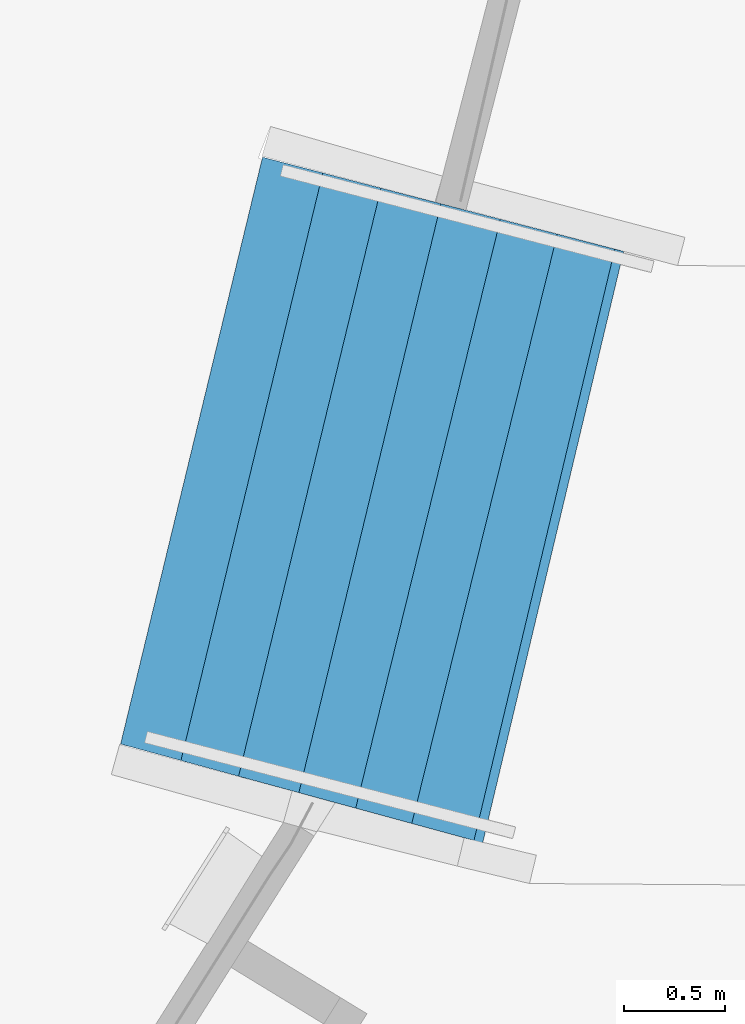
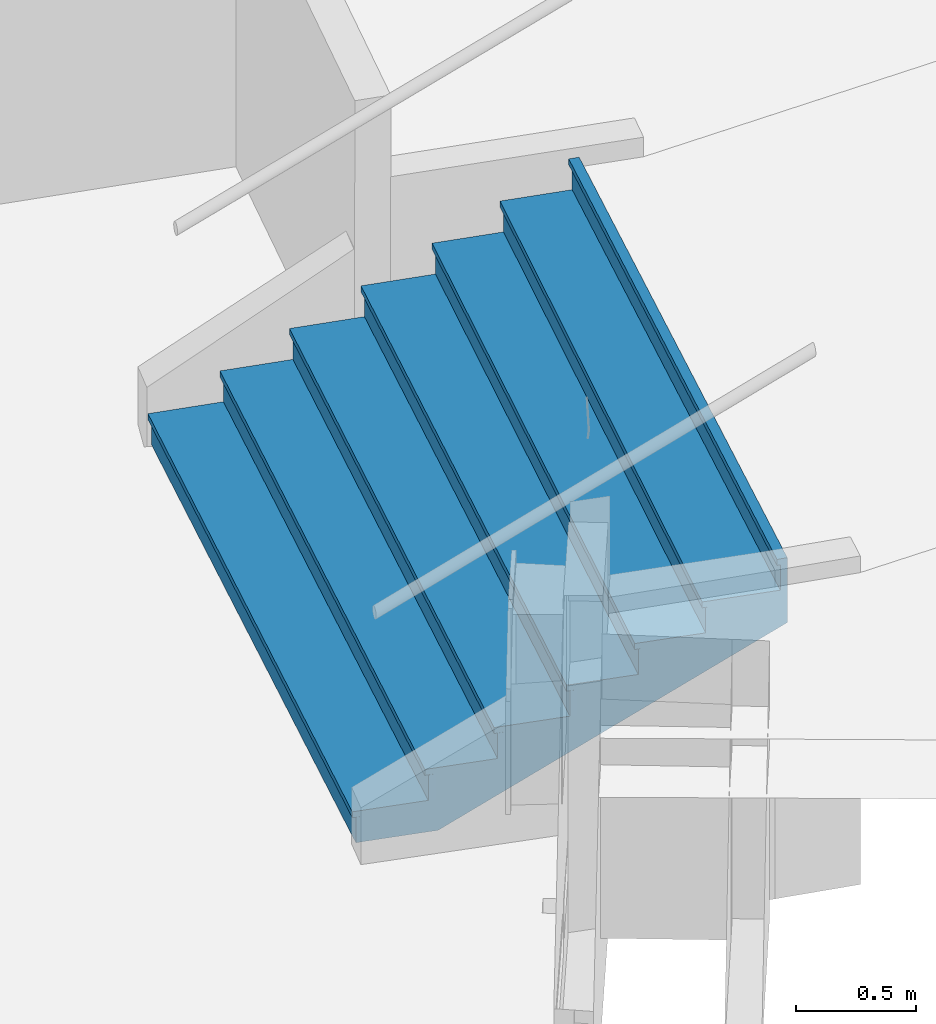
# One storey, part 117 of 133: 1 stair flight, 1 element without a shape of its own.
"""IFC2X3 building model written with IfcOpenShell, lengths in centimetres."""

from ifc_helpers import new_model, entity, si_unit, converted_unit, direction, frame, origin, origin_with_axes, place, context, subcontext, project, spatial, faceted_brep, material, material_list, element, aggregate, save


model = new_model("IFC2X3")

# Units and contexts
model_context = context("Model", 3, precision=0.0001, world=origin(), true_north=direction((0.225632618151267, 0.974212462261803, 0.0)))
body_context = subcontext(model_context, "Body", "Model", "MODEL_VIEW")
ifc_project = project(units=[si_unit("LENGTHUNIT", "METRE", prefix="CENTI"), si_unit("AREAUNIT", "SQUARE_METRE", prefix="CENTI"), si_unit("VOLUMEUNIT", "CUBIC_METRE", prefix="CENTI"), converted_unit("PLANEANGLEUNIT", "DEGREE", entity("IfcRatioMeasure", 0.0174532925), si_unit("PLANEANGLEUNIT", "RADIAN"), dimensions=[0, 0, 0, 0, 0, 0, 0])], contexts=[model_context])

# Site, building, storey
site_placement = place(None, origin_with_axes())
site = spatial("IfcSite", under=ifc_project, at=site_placement, Name="Default Site", CompositionType="ELEMENT")
building_placement = place(site_placement, origin_with_axes())
building = spatial("IfcBuilding", under=site, at=building_placement, Name="Default Building", CompositionType="ELEMENT")
storey_placement = place(building_placement, frame((0.0, 0.0, -291.400371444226), z_axis=(0.0, 0.0, 1.0), x_axis=(1.0, 0.0, 0.0)))
storey = spatial("IfcBuildingStorey", under=building, at=storey_placement, Name="Rez-de-Jardin", CompositionType="ELEMENT", Elevation=-291.400371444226)

# Stair, stair flight
stair_placement = place(storey_placement, frame((1640.38055323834, 281.257203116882, 0.0), z_axis=(0.0, 0.0, 1.0), x_axis=(1.0, 0.0, 0.0)))
stair = element("IfcStair", 1, at=stair_placement, inside=storey, Name="Escalier 135402", ShapeType="NOTDEFINED")
ifc_material_1 = material(Name="Blanc")
ifc_material_2 = material(Name="Blanc apricena")
ifc_material_3 = material(Name="Brèche oniciata")
ifc_material_list = material_list([ifc_material_1, ifc_material_2, ifc_material_3])
stair_flight_placement = place(stair_placement, frame((35.2978906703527, 145.969912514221, 12.9143341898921), z_axis=(0.0, 0.0, 1.0), x_axis=(0.9719872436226, -0.235033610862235, 0.0)))
stair_flight = element("IfcStairFlight", 2, at=stair_flight_placement, material=ifc_material_list, Name="4294967264", context=body_context, shape_type="Brep", body=[
    faceted_brep([(-2.99999265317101, 0.0, -12.9143238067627), (0.0, 0.0, -12.9143238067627), (-0.00267838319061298, -300.354185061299, -12.9143238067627), (-3.00267663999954, -300.354161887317, -12.9143238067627), (0.0, 0.0, 4.44089209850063e-14), (-2.99999265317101, 0.0, 4.44089209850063e-14), (-3.00267663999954, -300.354161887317, 4.44089209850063e-14), (-0.00267838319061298, -300.354185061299, 4.44089209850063e-14), (-3.00267747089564, -300.354161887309, -12.9143238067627), (-2.99999182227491, -7.42724712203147e-12, 4.44089209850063e-14), (-2.99999265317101, 1.35059962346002e-08, -12.9143238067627), (-6.08041270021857e-17, -1.35059962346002e-08, 4.44089209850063e-14), (-2.26574293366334e-06, 2.01874803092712e-11, -12.9143238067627), (-0.00267611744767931, -300.354185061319, 4.44089209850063e-14), (-0.00267838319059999, -300.354185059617, -12.9143238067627), (-3.00267663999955, -300.354161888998, 4.44089209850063e-14)], [[[0, 1, 2]], [[2, 3, 0]], [[4, 5, 6]], [[6, 7, 4]], [[5, 0, 8]], [[3, 6, 9]], [[4, 1, 10]], [[0, 5, 11]], [[7, 2, 12]], [[1, 4, 13]], [[6, 3, 14]], [[2, 7, 15]]]),
    faceted_brep([(27.9791310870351, -0.55913938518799, 2.9999971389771), (30.9792367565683, -0.557983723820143, 2.9999971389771), (31.0951195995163, -301.258842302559, 2.9999971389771), (28.095019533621, -301.260021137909, 2.9999971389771), (30.9792367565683, -0.557983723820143, 15.9143447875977), (27.9791310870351, -0.55913938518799, 15.9143447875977), (28.095019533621, -301.260021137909, 15.9143447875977), (31.0951195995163, -301.258842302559, 15.9143447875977), (28.0950159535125, -301.260021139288, 2.9999971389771), (27.9791346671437, -0.559139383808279, 15.9143447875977), (27.9791310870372, -0.559139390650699, 2.9999971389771), (30.9792367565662, -0.557983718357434, 15.9143447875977), (30.9792390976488, -0.557983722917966, 2.9999971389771), (31.0951172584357, -301.258842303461, 15.9143447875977), (31.09511959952, -301.2588423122, 2.9999971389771), (28.0950195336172, -301.260021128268, 15.9143447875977)], [[[0, 1, 2]], [[2, 3, 0]], [[4, 5, 6]], [[6, 7, 4]], [[5, 0, 8]], [[3, 6, 9]], [[4, 1, 10]], [[0, 5, 11]], [[7, 2, 12]], [[1, 4, 13]], [[6, 3, 14]], [[2, 7, 15]]]),
    faceted_brep([(57.9006496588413, -1.09590581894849, 18.9143419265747), (60.9006922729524, -1.09692395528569, 18.9143419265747), (60.8000834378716, -302.123004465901, 18.9143419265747), (57.8000464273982, -302.122009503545, 18.9143419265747), (60.9006922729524, -1.09692395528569, 31.8286895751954), (57.9006496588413, -1.09590581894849, 31.8286895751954), (57.8000464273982, -302.122009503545, 31.8286895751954), (60.8000834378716, -302.123004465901, 31.8286895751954), (57.8000470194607, -302.122009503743, 18.9143419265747), (57.9006490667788, -1.09590581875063, 31.8286895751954), (57.9006496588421, -1.09590581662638, 18.9143419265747), (60.9006922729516, -1.09692395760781, 31.8286895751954), (60.9006947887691, -1.09692395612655, 18.9143419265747), (60.8000809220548, -302.12300446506, 31.8286895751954), (60.800083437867, -302.123004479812, 18.9143419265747), (57.8000464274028, -302.122009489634, 31.8286895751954)], [[[0, 1, 2]], [[2, 3, 0]], [[4, 5, 6]], [[6, 7, 4]], [[5, 0, 8]], [[3, 6, 9]], [[4, 1, 10]], [[0, 5, 11]], [[7, 2, 12]], [[1, 4, 13]], [[6, 3, 14]], [[2, 7, 15]]]),
    faceted_brep([(88.6742264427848, -1.65304086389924, 34.8286867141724), (91.6741640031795, -1.65118998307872, 34.8286867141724), (91.861137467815, -303.0266492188, 34.8286867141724), (88.8611999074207, -303.02850009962, 34.8286867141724), (91.6741640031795, -1.65118998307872, 47.7430105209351), (88.6742264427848, -1.65304086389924, 47.7430105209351), (88.8611999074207, -303.02850009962, 47.7430105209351), (91.861137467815, -303.0266492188, 47.7430105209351), (88.8611971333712, -303.028500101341, 34.8286867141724), (88.6742292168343, -1.65304086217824, 47.7430105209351), (88.6742264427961, -1.65304088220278, 34.8286867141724), (91.6741640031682, -1.65118996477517, 47.7430105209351), (91.6741667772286, -1.65118998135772, 34.8286867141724), (91.8611346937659, -303.026649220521, 47.7430105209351), (91.8611374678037, -303.026649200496, 34.8286867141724), (88.861199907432, -303.028500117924, 47.7430105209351)], [[[0, 1, 2]], [[2, 3, 0]], [[4, 5, 6]], [[6, 7, 4]], [[5, 0, 8]], [[3, 6, 9]], [[4, 1, 10]], [[0, 5, 11]], [[7, 2, 12]], [[1, 4, 13]], [[6, 3, 14]], [[2, 7, 15]]]),
    faceted_brep([(119.259056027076, -2.19081455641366, 50.7430315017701), (122.25903086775, -2.20210219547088, 50.7430315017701), (121.125407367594, -303.878004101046, 50.7430315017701), (118.125435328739, -303.86672804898, 50.7430315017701), (122.25903086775, -2.20210219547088, 63.6573553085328), (119.259056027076, -2.19081455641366, 63.6573553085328), (118.125435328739, -303.86672804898, 63.6573553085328), (121.125407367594, -303.878004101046, 63.6573553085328), (118.125434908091, -303.866728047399, 50.7430315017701), (119.259056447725, -2.19081455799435, 63.6573553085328), (119.259056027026, -2.19081456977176, 50.7430315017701), (122.2590308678, -2.20210218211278, 63.6573553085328), (122.259032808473, -2.20210220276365, 50.7430315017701), (121.125405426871, -303.878004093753, 63.6573553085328), (121.125407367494, -303.878004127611, 50.7430315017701), (118.125435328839, -303.866728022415, 63.6573553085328)], [[[0, 1, 2]], [[2, 3, 0]], [[4, 5, 6]], [[6, 7, 4]], [[5, 0, 8]], [[3, 6, 9]], [[4, 1, 10]], [[0, 5, 11]], [[7, 2, 12]], [[1, 4, 13]], [[6, 3, 14]], [[2, 7, 15]]]),
    faceted_brep([(148.499767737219, -2.71427182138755, 66.6573524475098), (151.49972948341, -2.72875139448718, 66.6573524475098), (150.043428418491, -304.719224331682, 66.6573524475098), (147.043469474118, -304.704756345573, 66.6573524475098), (151.49972948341, -2.72875139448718, 79.5717000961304), (148.499767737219, -2.71427182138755, 79.5717000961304), (147.043469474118, -304.704756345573, 79.5717000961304), (150.043428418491, -304.719224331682, 79.5717000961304), (147.04347020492, -304.704756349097, 66.6573524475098), (148.499767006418, -2.71427181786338, 79.5717000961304), (148.499767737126, -2.7142718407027, 66.6573524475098), (151.499729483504, -2.72875137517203, 79.5717000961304), (151.49973026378, -2.7287513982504, 66.6573524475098), (150.043427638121, -304.719224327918, 79.5717000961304), (150.043428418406, -304.719224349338, 66.6573524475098), (147.043469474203, -304.704756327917, 79.5717000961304)], [[[0, 1, 2]], [[2, 3, 0]], [[4, 5, 6]], [[6, 7, 4]], [[5, 0, 8]], [[3, 6, 9]], [[4, 1, 10]], [[0, 5, 11]], [[7, 2, 12]], [[1, 4, 13]], [[6, 3, 14]], [[2, 7, 15]]]),
    faceted_brep([(178.052172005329, -3.27131728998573, 82.5716972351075), (181.052226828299, -3.26102461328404, 82.5716972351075), (182.08666682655, -305.651454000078, 82.5716972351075), (179.086794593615, -305.661690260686, 82.5716972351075), (181.052226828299, -3.26102461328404, 95.4860329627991), (178.052172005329, -3.27131728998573, 95.4860329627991), (179.086794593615, -305.661690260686, 95.4860329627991), (182.08666682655, -305.651454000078, 95.4860329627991), (179.086794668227, -305.66169026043, 82.5716972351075), (178.052171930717, -3.27131729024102, 95.4860329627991), (178.052172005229, -3.2713172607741, 82.5716972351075), (181.0522268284, -3.26102464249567, 95.4860329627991), (181.052223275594, -3.26102462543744, 82.5716972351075), (182.086670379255, -305.651453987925, 95.4860329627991), (182.086666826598, -305.651454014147, 82.5716972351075), (179.086794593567, -305.661690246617, 95.4860329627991)], [[[0, 1, 2]], [[2, 3, 0]], [[4, 5, 6]], [[6, 7, 4]], [[5, 0, 8]], [[3, 6, 9]], [[4, 1, 10]], [[0, 5, 11]], [[7, 2, 12]], [[1, 4, 13]], [[6, 3, 14]], [[2, 7, 15]]]),
    faceted_brep([(-0.00267838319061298, -300.354185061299, -12.9143238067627), (-0.00267838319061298, -300.354185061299, 4.44089209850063e-14), (-2.26574293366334e-06, 2.01874803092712e-11, 4.44089209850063e-14), (0.0, 0.0, 4.44089209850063e-14), (0.0, 0.0, -12.9143238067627), (-0.00267611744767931, -300.354185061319, -12.9143238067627), (31.0951195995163, -301.258842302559, 4.44089209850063e-14), (31.0951195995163, -301.258842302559, 15.9143447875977), (30.9792390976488, -0.557983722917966, 15.9143447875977), (30.9792367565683, -0.557983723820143, 15.9143447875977), (30.9792367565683, -0.557983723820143, 4.44089209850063e-14), (31.0951172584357, -301.258842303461, 4.44089209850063e-14), (60.8000834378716, -302.123004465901, 15.9143447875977), (60.8000834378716, -302.123004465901, 31.8286895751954), (60.9006947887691, -1.09692395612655, 31.8286895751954), (60.9006922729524, -1.09692395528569, 31.8286895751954), (60.9006922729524, -1.09692395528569, 15.9143447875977), (60.8000809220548, -302.12300446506, 15.9143447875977), (91.861137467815, -303.0266492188, 31.8286895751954), (91.861137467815, -303.0266492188, 47.7430105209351), (91.6741667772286, -1.65118998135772, 47.7430105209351), (91.6741640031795, -1.65118998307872, 47.7430105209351), (91.6741640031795, -1.65118998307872, 31.8286895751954), (91.8611346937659, -303.026649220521, 31.8286895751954), (121.125407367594, -303.878004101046, 47.7430105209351), (121.125407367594, -303.878004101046, 63.6573553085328), (122.259032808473, -2.20210220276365, 63.6573553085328), (122.25903086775, -2.20210219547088, 63.6573553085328), (122.25903086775, -2.20210219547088, 47.7430105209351), (121.125405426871, -303.878004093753, 47.7430105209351), (150.043428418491, -304.719224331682, 63.6573553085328), (150.043428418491, -304.719224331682, 79.5717000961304), (151.49973026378, -2.7287513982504, 79.5717000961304), (151.49972948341, -2.72875139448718, 79.5717000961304), (151.49972948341, -2.72875139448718, 63.6573553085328), (150.043427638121, -304.719224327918, 63.6573553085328), (182.08666682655, -305.651454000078, 79.5717000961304), (181.052226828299, -3.26102461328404, 79.5717000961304), (182.08666682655, -305.651454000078, 65.6250476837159), (181.052223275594, -3.26102462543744, 65.6250476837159), (181.052226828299, -3.26102461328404, 65.6250476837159), (182.086670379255, -305.651453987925, 79.5717000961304), (32.1328117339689, -0.578785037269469, -12.9143238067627), (32.3142521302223, -301.294317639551, -12.9143238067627), (31.0951195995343, -301.258842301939, 4.39519102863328e-14), (-0.00267838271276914, -300.354185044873, -12.9143238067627), (32.3142521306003, -301.294317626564, -12.9143238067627), (32.3142521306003, -301.294317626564, 15.9143447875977), (31.0951195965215, -301.258842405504, 4.44089209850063e-14), (60.80008341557, -302.123005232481, 15.9143447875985), (32.3142521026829, -301.294318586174, -12.9143238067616), (182.086666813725, -305.651454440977, 65.6250476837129), (91.8611374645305, -303.026649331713, 31.8286895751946), (182.086666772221, -305.651455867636, 65.6250476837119), (121.125407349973, -303.878004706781, 47.7430105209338), (182.086666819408, -305.651454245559, 65.6250476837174), (150.043428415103, -304.719224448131, 63.6573553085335), (182.086666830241, -305.651453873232, 65.6250476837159), (182.086666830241, -305.651453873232, 79.5717000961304), (150.043428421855, -304.71922421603, 63.6573553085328), (121.125407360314, -303.878004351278, 47.7430105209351), (91.8611374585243, -303.026649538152, 31.8286895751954), (32.3142521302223, -301.294317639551, 15.9143447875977), (60.8000834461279, -302.123004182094, 15.9143447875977), (32.1328117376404, -0.57878483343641, -12.9143238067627), (-4.46227687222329e-09, -2.47745561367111e-07, 4.981633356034e-13), (30.9792367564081, -0.557983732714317, 6.06989013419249e-14), (30.9792367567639, -0.557983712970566, 4.44089209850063e-14), (32.1328117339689, -0.578785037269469, 15.9143447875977), (30.9792367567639, -0.557983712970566, 15.9143447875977), (60.9006922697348, -1.09692413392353, 15.9143447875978), (181.052226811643, -3.26102553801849, 65.6250476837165), (32.1328117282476, -0.578785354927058, -12.9143238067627), (32.1328117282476, -0.578785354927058, 15.9143447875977), (60.900692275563, -1.09692381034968, 15.9143447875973), (91.6741640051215, -1.651189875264, 31.8286895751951), (60.9006922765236, -1.09692375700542, 15.9143447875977), (60.9006922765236, -1.09692375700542, 31.8286895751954), (91.6741639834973, -1.65119107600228, 31.8286895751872), (122.259030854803, -2.20210291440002, 47.7430105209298), (91.6741640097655, -1.65118961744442, 31.8286895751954), (91.6741640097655, -1.65118961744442, 47.7430105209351), (122.259030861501, -2.20210254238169, 47.7430105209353), (151.49972948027, -2.7287515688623, 63.6573553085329), (122.259030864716, -2.20210236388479, 47.7430105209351), (122.259030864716, -2.20210236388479, 63.6573553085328), (151.499729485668, -2.72875126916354, 63.6573553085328), (151.499729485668, -2.72875126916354, 79.5717000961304), (182.086667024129, -305.651453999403, 65.6250473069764), (32.314252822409, -301.294317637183, -12.9143251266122), (32.3142508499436, -301.294317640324, -12.9143213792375), (32.1328109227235, -0.578785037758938, -12.9143222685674)], [[[0, 1, 2]], [[3, 4, 5]], [[6, 7, 8]], [[9, 10, 11]], [[12, 13, 14]], [[15, 16, 17]], [[18, 19, 20]], [[21, 22, 23]], [[24, 25, 26]], [[27, 28, 29]], [[30, 31, 32]], [[33, 34, 35]], [[1, 6, 10]], [[10, 3, 1]], [[7, 12, 16]], [[16, 9, 7]], [[13, 18, 22]], [[22, 15, 13]], [[19, 24, 28]], [[28, 21, 19]], [[25, 30, 34]], [[34, 27, 25]], [[31, 36, 37]], [[37, 33, 31]], [[36, 38, 39]], [[40, 37, 41]], [[42, 43, 0]], [[0, 4, 42]], [[43, 44, 45]], [[6, 46, 47]], [[6, 47, 7]], [[1, 0, 48]], [[38, 49, 50]], [[12, 51, 52]], [[18, 53, 54]], [[24, 55, 56]], [[30, 57, 31]], [[31, 57, 58]], [[25, 24, 59]], [[19, 18, 60]], [[13, 12, 61]], [[62, 43, 63]], [[3, 64, 4]], [[42, 65, 66]], [[42, 67, 68]], [[68, 67, 69]], [[42, 70, 71]], [[16, 72, 73]], [[40, 74, 75]], [[22, 76, 77]], [[40, 78, 79]], [[28, 80, 81]], [[40, 82, 83]], [[34, 84, 85]], [[40, 86, 87]], [[40, 87, 37]], [[40, 88, 89]], [[40, 90, 91]]]),
    faceted_brep([(-4.50254049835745, -300.223243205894, 2.9999971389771), (31.0951195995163, -301.258842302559, 2.9999971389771), (30.9792367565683, -0.557983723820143, 2.9999971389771), (-4.49995861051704, 0.0810265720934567, 2.9999971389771), (30.9792367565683, -0.557983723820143, 4.44089209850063e-14), (31.0951195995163, -301.258842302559, 4.44089209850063e-14), (-4.50254049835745, -300.223243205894, 4.44089209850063e-14), (-4.49995861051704, 0.0810265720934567, 4.44089209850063e-14), (-4.49996037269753, 0.0810265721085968, 2.9999971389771), (-4.50253873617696, -300.22324320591, 4.44089209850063e-14), (-4.50254049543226, -300.223243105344, 2.9999971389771), (31.0951195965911, -301.258842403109, 4.44089209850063e-14), (31.0951172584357, -301.258842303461, 2.9999971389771), (30.9792390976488, -0.557983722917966, 4.44089209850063e-14), (30.9792367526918, -0.55798393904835, 2.9999971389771), (-4.4999586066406, 0.0810267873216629, 4.44089209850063e-14)], [[[0, 1, 2]], [[2, 3, 0]], [[4, 5, 6]], [[6, 7, 4]], [[6, 0, 8]], [[3, 7, 9]], [[5, 1, 10]], [[0, 6, 11]], [[4, 2, 12]], [[1, 5, 13]], [[7, 3, 14]], [[2, 4, 15]]]),
    faceted_brep([(26.5950664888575, -301.127922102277, 18.9143419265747), (60.8000834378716, -302.123004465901, 18.9143419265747), (60.9006922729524, -1.09692395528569, 18.9143419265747), (26.479266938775, -0.476910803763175, 18.9143419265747), (60.9006922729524, -1.09692395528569, 15.9143447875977), (60.8000834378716, -302.123004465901, 15.9143447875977), (26.5950664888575, -301.127922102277, 15.9143447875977), (26.479266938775, -0.476910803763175, 15.9143447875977), (26.4792661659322, -0.476910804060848, 18.9143419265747), (26.5950672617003, -301.127922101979, 15.9143447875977), (26.5950665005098, -301.127921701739, 18.9143419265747), (60.8000834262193, -302.123004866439, 15.9143447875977), (60.8000809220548, -302.12300446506, 18.9143419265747), (60.9006947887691, -1.09692395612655, 15.9143447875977), (60.9006922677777, -1.09692424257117, 18.9143419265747), (26.4792669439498, -0.476910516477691, 15.9143447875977)], [[[0, 1, 2]], [[2, 3, 0]], [[4, 5, 6]], [[6, 7, 4]], [[6, 0, 8]], [[3, 7, 9]], [[5, 1, 10]], [[0, 6, 11]], [[4, 2, 12]], [[1, 5, 13]], [[7, 3, 14]], [[2, 4, 15]]]),
    faceted_brep([(56.3000387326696, -301.992119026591, 34.8286867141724), (91.861137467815, -303.0266492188, 34.8286867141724), (91.6741640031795, -1.65118998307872, 34.8286867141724), (56.4007224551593, -1.01585103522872, 34.8286867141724), (91.6741640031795, -1.65118998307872, 31.8286895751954), (91.861137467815, -303.0266492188, 31.8286895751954), (56.3000387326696, -301.992119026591, 31.8286895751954), (56.4007224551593, -1.01585103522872, 31.8286895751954), (56.4007204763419, -1.01585103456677, 34.8286867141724), (56.300040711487, -301.992119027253, 31.8286895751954), (56.3000387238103, -301.992119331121, 34.8286867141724), (91.8611374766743, -303.026648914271, 31.8286895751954), (91.8611346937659, -303.026649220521, 34.8286867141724), (91.6741667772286, -1.65118998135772, 31.8286895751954), (91.6741640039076, -1.65118994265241, 34.8286867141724), (56.4007224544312, -1.01585107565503, 31.8286895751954)], [[[0, 1, 2]], [[2, 3, 0]], [[4, 5, 6]], [[6, 7, 4]], [[6, 0, 8]], [[3, 7, 9]], [[5, 1, 10]], [[0, 6, 11]], [[4, 2, 12]], [[1, 5, 13]], [[7, 3, 14]], [[2, 4, 15]]]),
    faceted_brep([(87.3610843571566, -302.895729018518, 50.7430315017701), (121.125407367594, -303.878004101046, 50.7430315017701), (122.25903086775, -2.20210219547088, 50.7430315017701), (87.1741941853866, -1.57011706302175, 50.7430315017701), (122.25903086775, -2.20210219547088, 47.7430105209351), (121.125407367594, -303.878004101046, 47.7430105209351), (87.3610843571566, -302.895729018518, 47.7430105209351), (87.1741941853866, -1.57011706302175, 47.7430105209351), (87.174196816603, -1.57011706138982, 50.7430315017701), (87.3610817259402, -302.89572902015, 47.7430105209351), (87.3610843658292, -302.895728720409, 50.7430315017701), (121.125407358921, -303.878004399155, 47.7430105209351), (121.125405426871, -303.878004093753, 50.7430315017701), (122.259032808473, -2.20210220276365, 47.7430105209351), (122.259030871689, -2.20210197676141, 50.7430315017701), (87.174194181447, -1.57011728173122, 47.7430105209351)], [[[0, 1, 2]], [[2, 3, 0]], [[4, 5, 6]], [[6, 7, 4]], [[6, 0, 8]], [[3, 7, 9]], [[5, 1, 10]], [[0, 6, 11]], [[4, 2, 12]], [[1, 5, 13]], [[7, 3, 14]], [[2, 4, 15]]]),
    faceted_brep([(116.625941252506, -303.747076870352, 66.6573524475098), (150.043428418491, -304.719224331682, 66.6573524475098), (151.49972948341, -2.72875139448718, 66.6573524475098), (117.759263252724, -2.12105396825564, 66.6573524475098), (151.49972948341, -2.72875139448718, 63.6573553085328), (150.043428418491, -304.719224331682, 63.6573553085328), (116.625941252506, -303.747076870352, 63.6573553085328), (117.759263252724, -2.12105396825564, 63.6573553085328), (117.759261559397, -2.12105396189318, 66.6573524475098), (116.625942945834, -303.747076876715, 63.6573553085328), (116.625941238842, -303.747077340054, 66.6573524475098), (150.043428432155, -304.71922386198, 63.6573553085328), (150.043427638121, -304.719224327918, 66.6573524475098), (151.49973026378, -2.7287513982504, 63.6573553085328), (151.499729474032, -2.72875191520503, 66.6573524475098), (117.759263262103, -2.12105344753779, 63.6573553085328)], [[[0, 1, 2]], [[2, 3, 0]], [[4, 5, 6]], [[6, 7, 4]], [[6, 0, 8]], [[3, 7, 9]], [[5, 1, 10]], [[0, 6, 11]], [[4, 2, 12]], [[1, 5, 13]], [[7, 3, 14]], [[2, 4, 15]]]),
    faceted_brep([(145.54397210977, -304.588337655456, 82.5716972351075), (182.08666682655, -305.651454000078, 82.5716972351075), (181.052226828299, -3.26102461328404, 82.5716972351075), (146.999967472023, -2.64772634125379, 82.5716972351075), (181.052226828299, -3.26102461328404, 79.5717000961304), (182.08666682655, -305.651454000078, 79.5717000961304), (145.54397210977, -304.588337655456, 79.5717000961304), (146.999967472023, -2.64772634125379, 79.5717000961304), (146.999968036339, -2.64772634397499, 82.5716972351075), (145.543971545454, -304.588337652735, 79.5717000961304), (145.543972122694, -304.588337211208, 82.5716972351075), (182.086666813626, -305.651454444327, 79.5717000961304), (182.086670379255, -305.651453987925, 82.5716972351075), (181.052223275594, -3.26102462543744, 79.5717000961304), (181.052226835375, -3.26102422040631, 82.5716972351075), (146.999967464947, -2.64772673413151, 79.5717000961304)], [[[0, 1, 2]], [[2, 3, 0]], [[4, 5, 6]], [[6, 7, 4]], [[6, 0, 8]], [[3, 7, 9]], [[5, 1, 10]], [[0, 6, 11]], [[4, 2, 12]], [[1, 5, 13]], [[7, 3, 14]], [[2, 4, 15]]]),
    faceted_brep([(177.586858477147, -305.666808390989, 98.4860420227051), (182.08666682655, -305.651454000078, 98.4860420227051), (181.052226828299, -3.26102461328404, 98.4860420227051), (176.552234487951, -3.27642962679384, 98.4860420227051), (182.08666682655, -305.651454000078, 95.4860329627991), (177.586858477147, -305.666808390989, 95.4860329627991), (176.552234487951, -3.27642962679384, 95.4860329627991), (181.052226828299, -3.26102461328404, 95.4860329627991), (176.55223579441, -3.27642962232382, 98.4860420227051), (177.586857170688, -305.666808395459, 95.4860329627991), (177.586858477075, -305.666808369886, 98.4860420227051), (182.086666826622, -305.651454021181, 95.4860329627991), (182.086670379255, -305.651453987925, 98.4860420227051), (181.052223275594, -3.26102462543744, 95.4860329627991), (181.052226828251, -3.2610245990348, 98.4860420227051), (176.552234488, -3.27642964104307, 95.4860329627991)], [[[0, 1, 2]], [[2, 3, 0]], [[4, 5, 6]], [[6, 7, 4]], [[5, 0, 8]], [[3, 6, 9]], [[4, 1, 10]], [[0, 5, 11]], [[7, 2, 12]], [[1, 4, 13]], [[6, 3, 14]], [[2, 7, 15]]]),
])
aggregate(stair, [stair_flight])

save(model, "model.ifc")
